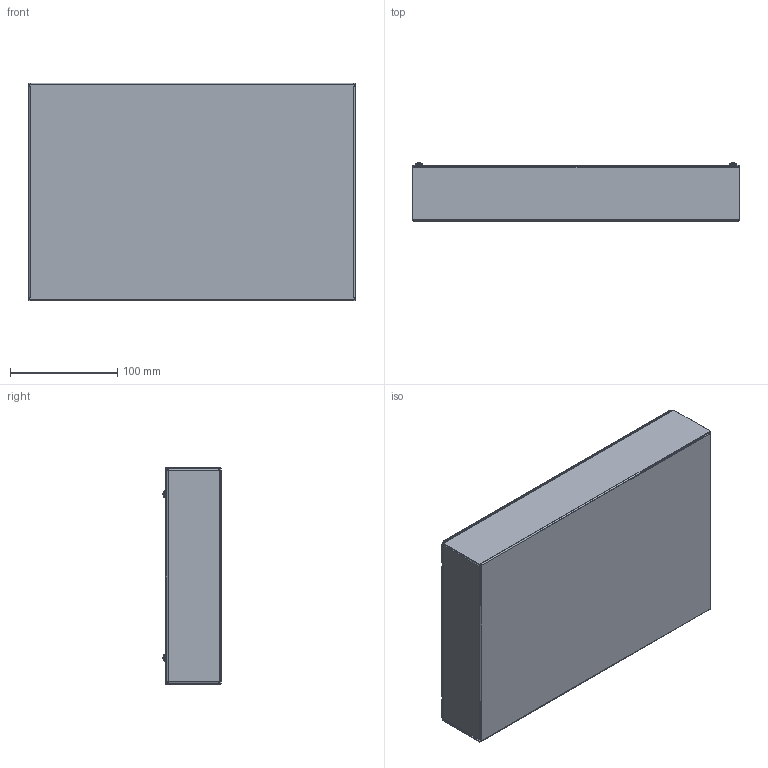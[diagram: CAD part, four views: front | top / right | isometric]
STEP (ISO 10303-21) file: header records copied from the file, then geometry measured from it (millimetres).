
FILE_DESCRIPTION((''),'2;1');
FILE_NAME('E:\Eng\Customer Service\Drawings\1441 & 1431\STEP Files\1441-22\1441-22 - Assembly.iam.stp','2013-07-10T11:33:08',(''),(''),'Autodesk Inventor 2013','Autodesk Inventor 2013','');
FILE_SCHEMA(('AUTOMOTIVE_DESIGN { 1 0 10303 214 1 1 1 1 }'));
Length unit declared in the file: inch
Products named in the file (4): 1441-22 - Assembly; 1441-22; 1431-22; 6-32 (SC18394)
Assembly tree (6 placements, depth 2):
  1441-22 - Assembly
    1441-22
    1431-22
    6-32 (SC18394)  x4
Bounding box: 304.8 x 54.23 x 203.2 mm (x, y, z)
Volume: 168402.9 mm3; surface area: 370545.6 mm2
Topology: 6 solids, 6 shells, 248 faces, 616 edges, 384 vertices
Faces by surface type: plane 184, cylinder 40, bspline 16, torus 8
Full cylindrical faces by diameter (mm): 2.946 x4, 3.404 x4, 6.731 x4
Entity records: 5190 total; most frequent: CARTESIAN_POINT 1247, ORIENTED_EDGE 794, DIRECTION 758, EDGE_CURVE 397, VECTOR 310, LINE 310, VERTEX_POINT 245, AXIS2_PLACEMENT_3D 224
